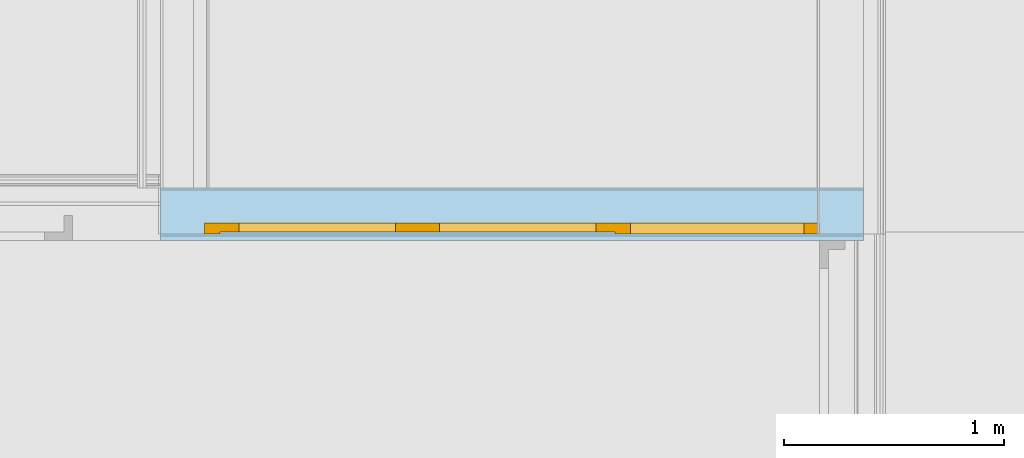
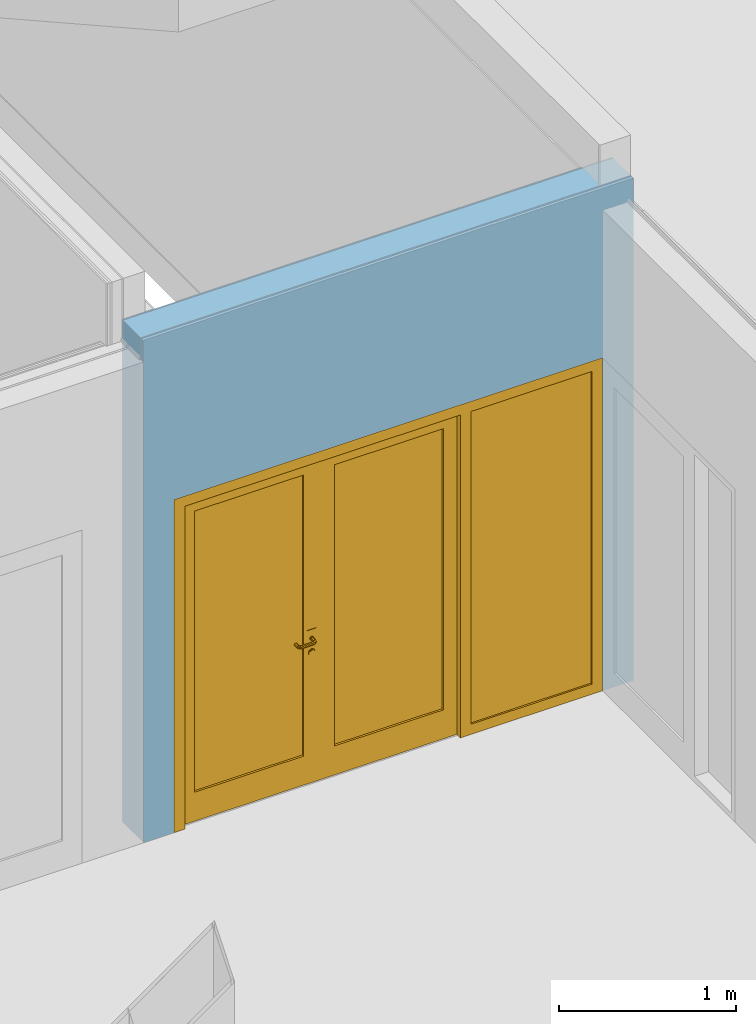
# One storey, part 103 of 139: 1 door, 1 opening, 1 element without a shape of its own, plus 4 elements that do not belong to this part.
"""IFC2X3 building model written with IfcOpenShell, lengths in millimetres."""

from ifc_helpers import new_model, entity, si_unit, converted_unit, derived_unit, money_unit, direction, frame, origin_with_axes, place, context, subcontext, project, spatial, open_shell, faceted_brep, surface_model, material, type_object, element, fill, aggregate, save


model = new_model("IFC2X3")

# Units and contexts
model_context = context("Model", 3, precision=0.01, world=origin_with_axes(), true_north=direction((0.0, 1.0)))
body_context = subcontext(model_context, "Body", "Model", "MODEL_VIEW")
ifc_project = project(units=[si_unit("LENGTHUNIT", "METRE", prefix="MILLI"), si_unit("AREAUNIT", "SQUARE_METRE"), si_unit("VOLUMEUNIT", "CUBIC_METRE"), converted_unit("PLANEANGLEUNIT", "DEGREE", entity("IfcPlaneAngleMeasure", 0.0174532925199), si_unit("PLANEANGLEUNIT", "RADIAN"), dimensions=[0, 0, 0, 0, 0, 0, 0]), money_unit("EUR"), converted_unit("TIMEUNIT", "Year", entity("IfcTimeMeasure", 31556926.0), si_unit("TIMEUNIT", "SECOND"), dimensions=[0, 0, 1, 0, 0, 0, 0]), si_unit("MASSUNIT", "GRAM", prefix="KILO"), si_unit("THERMODYNAMICTEMPERATUREUNIT", "DEGREE_CELSIUS"), si_unit("LUMINOUSINTENSITYUNIT", "LUMEN"), si_unit("ENERGYUNIT", "JOULE", prefix="MEGA"), derived_unit("THERMALCONDUCTANCEUNIT", [(si_unit("POWERUNIT", "WATT"), 1), (si_unit("LENGTHUNIT", "METRE"), -1), (si_unit("THERMODYNAMICTEMPERATUREUNIT", "KELVIN"), -1)]), derived_unit("SPECIFICHEATCAPACITYUNIT", [(si_unit("ENERGYUNIT", "JOULE"), 1), (si_unit("MASSUNIT", "GRAM", prefix="KILO"), -1), (si_unit("THERMODYNAMICTEMPERATUREUNIT", "KELVIN"), -1)]), derived_unit("MASSDENSITYUNIT", [(si_unit("MASSUNIT", "GRAM", prefix="KILO"), 1), (si_unit("VOLUMEUNIT", "CUBIC_METRE"), -1)])], contexts=[model_context])

# Site, building, storey
site_placement = place(None, origin_with_axes())
site = spatial("IfcSite", under=ifc_project, at=site_placement, Name="Kolde pst 67a", CompositionType="ELEMENT")
building_placement = place(site_placement, origin_with_axes())
building = spatial("IfcBuilding", under=site, at=building_placement, Name="Riigigümnaasium", CompositionType="ELEMENT")
storey_placement = place(building_placement, frame((0.0, 0.0, 4600.0), z_axis=(0.0, 0.0, 1.0), x_axis=(1.0, 0.0, 0.0)))
storey = spatial("IfcBuildingStorey", under=building, at=storey_placement, Name="2. korrus", CompositionType="ELEMENT", Elevation=4600.0)

# Door
door_style = type_object("IfcDoorStyle", Name="Double Door with Sidelight 25", ConstructionType="NOTDEFINED", OperationType="USERDEFINED", ParameterTakesPrecedence=False, Sizeable=False)
wall_placement = place(storey_placement, frame((49590.0100555, 52820.0001843, 0.0), z_axis=(0.0, 0.0, 1.0), x_axis=(1.0, 0.0, 0.0)))
opening_placement = place(wall_placement, frame((1599.98406667, 0.0, 0.0), z_axis=(0.0, 0.0, 1.0), x_axis=(1.0, 0.0, 0.0)))
door_placement = place(opening_placement, frame((-1400.0, 0.0, 0.0), z_axis=(0.0, 0.0, 1.0), x_axis=(1.0, 0.0, 0.0)))
door = element("IfcDoor", 1, at=door_placement, inside=storey, type_object=door_style, Name="Kahepoolne siseuks", ObjectType="DOOR", OverallHeight=2300.0, OverallWidth=2800.0, context=body_context, shape_type="SurfaceModel", body=[
    faceted_brep([(2800.0, -160.0, 0.0), (2800.0, -240.0, 0.0), (2730.0, -240.0, 0.0), (2730.0, -160.0, 0.0), (2800.0, -160.0, 2230.0), (2800.0, -240.0, 2230.0), (2730.0, -240.0, 2230.0), (2730.0, -240.0, 70.0), (2730.0, -160.0, 70.0), (2730.0, -160.0, 2230.0)], [[[0, 1, 2, 3]], [[4, 5, 1, 0]], [[1, 5, 6, 7, 2]], [[3, 2, 7, 8]], [[0, 3, 8, 9, 4]], [[9, 6, 5, 4]], [[8, 7, 6, 9]]]),
    faceted_brep([(1870.0, -200.0, 0.0), (1870.0, -240.0, 0.0), (1870.0, -240.0, 2230.0), (1870.0, -200.0, 2230.0), (1882.0, -200.0, 0.0), (1882.0, -160.0, 0.0), (1940.0, -160.0, 0.0), (1940.0, -240.0, 0.0), (1940.0, -240.0, 70.0), (1940.0, -240.0, 2230.0), (1882.0, -200.0, 2230.0), (1940.0, -160.0, 2230.0), (1882.0, -160.0, 2230.0), (1940.0, -160.0, 70.0)], [[[0, 1, 2, 3]], [[4, 5, 6, 7, 1, 0]], [[7, 8, 9, 2, 1]], [[10, 3, 2, 9, 11, 12]], [[10, 4, 0, 3]], [[12, 5, 4, 10]], [[12, 11, 13, 6, 5]], [[6, 13, 8, 7]], [[13, 11, 9, 8]]]),
    faceted_brep([(2730.0, -160.0, 70.0), (2730.0, -240.0, 70.0), (2730.0, -240.0, 0.0), (2730.0, -160.0, 0.0), (1940.0, -160.0, 70.0), (1940.0, -240.0, 70.0), (1940.0, -240.0, 0.0), (1940.0, -160.0, 0.0)], [[[0, 1, 2, 3]], [[4, 5, 1, 0]], [[1, 5, 6, 2]], [[3, 2, 6, 7]], [[0, 3, 7, 4]], [[7, 6, 5, 4]]]),
    faceted_brep([(58.0, -200.0, 2230.0), (58.0, -160.0, 2230.0), (0.0, -160.0, 2230.0), (0.0, -240.0, 2230.0), (70.0, -240.0, 2230.0), (70.0, -200.0, 2230.0), (58.0, -200.0, 0.0), (58.0, -160.0, 0.0), (0.0, -160.0, 0.0), (0.0, -240.0, 0.0), (70.0, -240.0, 0.0), (70.0, -200.0, 0.0)], [[[0, 1, 2, 3, 4, 5]], [[0, 6, 7, 1]], [[7, 8, 2, 1]], [[2, 8, 9, 3]], [[3, 9, 10, 4]], [[5, 4, 10, 11]], [[5, 11, 6, 0]], [[6, 11, 10, 9, 8, 7]]]),
    faceted_brep([(1882.0, -160.0, 2242.0), (58.0, -160.0, 2242.0), (58.0, -160.0, 2230.0), (0.0, -160.0, 2230.0), (0.0, -160.0, 2300.0), (2800.0, -160.0, 2300.0), (2800.0, -160.0, 2230.0), (2730.0, -160.0, 2230.0), (1940.0, -160.0, 2230.0), (1882.0, -160.0, 2230.0), (1882.0, -200.0, 2242.0), (58.0, -200.0, 2242.0), (58.0, -200.0, 2230.0), (70.0, -200.0, 2230.0), (70.0, -240.0, 2230.0), (0.0, -240.0, 2230.0), (0.0, -240.0, 2300.0), (2800.0, -240.0, 2300.0), (2800.0, -240.0, 2230.0), (2730.0, -240.0, 2230.0), (1940.0, -240.0, 2230.0), (1882.0, -200.0, 2230.0), (1870.0, -240.0, 2230.0)], [[[0, 1, 2, 3, 4, 5, 6, 7, 8, 9]], [[0, 10, 11, 1]], [[1, 11, 12, 2]], [[12, 13, 14, 15, 3, 2]], [[4, 3, 15, 16]], [[5, 4, 16, 17]], [[6, 5, 17, 18]], [[7, 6, 18, 19]], [[8, 7, 19, 20]], [[21, 9, 8, 20, 22, 14, 13]], [[9, 21, 10, 0]], [[12, 11, 10, 21, 13]], [[14, 22, 20, 19, 18, 17, 16, 15]]]),
    faceted_brep([(948.5, -200.0, 1060.0), (891.5, -200.0, 1060.0), (891.5, -203.0, 1060.0), (948.5, -203.0, 1060.0), (948.5, -200.0, 870.0), (891.5, -200.0, 870.0), (891.5, -203.0, 870.0), (948.5, -203.0, 870.0)], [[[0, 1, 2, 3]], [[0, 4, 5, 1]], [[1, 5, 6, 2]], [[3, 2, 6, 7]], [[4, 0, 3, 7]], [[5, 4, 7, 6]]]),
    surface_model("IfcShellBasedSurfaceModel", [(910.0, -213.0, 1000.0), (912.928932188, -213.0, 992.928932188), (912.928932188, -232.303560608, 992.928932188), (910.0, -232.015085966, 1000.0), (920.0, -213.0, 990.0), (920.0, -233.0, 990.0), (911.816790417, -237.894674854, 992.928932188), (909.057796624, -236.751862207, 1000.0), (912.928932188, -213.0, 1007.07106781), (912.928932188, -232.303560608, 1007.07106781), (927.071067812, -213.0, 992.928932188), (927.071067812, -233.696439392, 992.928932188), (918.47759065, -240.653668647, 990.0), (909.044179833, -242.044179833, 992.928932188), (906.932537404, -239.932537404, 1000.0), (911.816790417, -237.894674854, 1007.07106781), (920.0, -213.0, 1010.0), (920.0, -233.0, 1010.0), (930.0, -213.0, 1000.0), (930.0, -233.984914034, 1000.0), (925.138390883, -243.41266244, 992.928932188), (914.142135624, -247.142135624, 990.0), (904.894674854, -244.816790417, 992.928932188), (903.751862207, -242.057796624, 1000.0), (909.044179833, -242.044179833, 1007.07106781), (918.47759065, -240.653668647, 1010.0), (927.071067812, -213.0, 1007.07106781), (927.071067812, -233.696439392, 1007.07106781), (927.897384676, -244.555475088, 1000.0), (919.240091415, -252.240091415, 992.928932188), (907.653668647, -251.47759065, 990.0), (899.303560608, -245.928932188, 992.928932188), (899.015085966, -243.0, 1000.0), (904.894674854, -244.816790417, 1007.07106781), (914.142135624, -247.142135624, 1010.0), (925.138390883, -243.41266244, 1007.07106781), (921.351733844, -254.351733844, 1000.0), (910.41266244, -258.138390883, 992.928932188), (900.0, -253.0, 990.0), (830.696439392, -245.928932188, 992.928932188), (830.984914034, -243.0, 1000.0), (899.303560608, -245.928932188, 1007.07106781), (907.653668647, -251.47759065, 1010.0), (919.240091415, -252.240091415, 1007.07106781), (911.555475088, -260.897384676, 1000.0), (900.696439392, -260.071067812, 992.928932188), (830.0, -253.0, 990.0), (825.105325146, -244.816790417, 992.928932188), (826.248137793, -242.057796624, 1000.0), (830.696439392, -245.928932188, 1007.07106781), (900.0, -253.0, 1010.0), (910.41266244, -258.138390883, 1007.07106781), (900.984914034, -263.0, 1000.0), (829.303560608, -260.071067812, 992.928932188), (822.346331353, -251.47759065, 990.0), (820.955820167, -242.044179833, 992.928932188), (823.067462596, -239.932537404, 1000.0), (825.105325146, -244.816790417, 1007.07106781), (830.0, -253.0, 1010.0), (900.696439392, -260.071067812, 1007.07106781), (829.015085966, -263.0, 1000.0), (819.58733756, -258.138390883, 992.928932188), (815.857864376, -247.142135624, 990.0), (818.183209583, -237.894674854, 992.928932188), (820.942203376, -236.751862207, 1000.0), (820.955820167, -242.044179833, 1007.07106781), (822.346331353, -251.47759065, 1010.0), (829.303560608, -260.071067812, 1007.07106781), (818.444524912, -260.897384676, 1000.0), (810.759908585, -252.240091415, 992.928932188), (811.52240935, -240.653668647, 990.0), (817.071067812, -232.303560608, 992.928932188), (820.0, -232.015085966, 1000.0), (818.183209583, -237.894674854, 1007.07106781), (815.857864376, -247.142135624, 1010.0), (819.58733756, -258.138390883, 1007.07106781), (808.648266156, -254.351733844, 1000.0), (804.861609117, -243.41266244, 992.928932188), (810.0, -233.0, 990.0), (817.071067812, -213.0, 992.928932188), (820.0, -213.0, 1000.0), (817.071067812, -232.303560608, 1007.07106781), (811.52240935, -240.653668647, 1010.0), (810.759908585, -252.240091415, 1007.07106781), (802.102615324, -244.555475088, 1000.0), (802.928932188, -233.696439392, 992.928932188), (810.0, -213.0, 990.0), (802.928932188, -213.0, 992.928932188), (800.0, -213.0, 1000.0), (802.928932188, -213.0, 1007.07106781), (810.0, -213.0, 1010.0), (817.071067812, -213.0, 1007.07106781), (810.0, -233.0, 1010.0), (804.861609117, -243.41266244, 1007.07106781), (800.0, -233.984914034, 1000.0), (802.928932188, -233.696439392, 1007.07106781)], [open_shell([[[0, 1, 2, 3]], [[1, 4, 5, 2]], [[3, 2, 6, 7]], [[8, 0, 3, 9]], [[4, 10, 11, 5]], [[2, 5, 12, 6]], [[7, 6, 13, 14]], [[9, 3, 7, 15]], [[16, 8, 9, 17]], [[10, 18, 19, 11]], [[5, 11, 20, 12]], [[6, 12, 21, 13]], [[14, 13, 22, 23]], [[15, 7, 14, 24]], [[17, 9, 15, 25]], [[26, 16, 17, 27]], [[18, 26, 27, 19]], [[11, 19, 28, 20]], [[12, 20, 29, 21]], [[13, 21, 30, 22]], [[23, 22, 31, 32]], [[24, 14, 23, 33]], [[25, 15, 24, 34]], [[27, 17, 25, 35]], [[19, 27, 35, 28]], [[20, 28, 36, 29]], [[21, 29, 37, 30]], [[22, 30, 38, 31]], [[32, 31, 39, 40]], [[33, 23, 32, 41]], [[34, 24, 33, 42]], [[35, 25, 34, 43]], [[28, 35, 43, 36]], [[29, 36, 44, 37]], [[30, 37, 45, 38]], [[31, 38, 46, 39]], [[40, 39, 47, 48]], [[41, 32, 40, 49]], [[42, 33, 41, 50]], [[43, 34, 42, 51]], [[36, 43, 51, 44]], [[37, 44, 52, 45]], [[38, 45, 53, 46]], [[39, 46, 54, 47]], [[48, 47, 55, 56]], [[49, 40, 48, 57]], [[50, 41, 49, 58]], [[51, 42, 50, 59]], [[44, 51, 59, 52]], [[45, 52, 60, 53]], [[46, 53, 61, 54]], [[47, 54, 62, 55]], [[56, 55, 63, 64]], [[57, 48, 56, 65]], [[58, 49, 57, 66]], [[59, 50, 58, 67]], [[52, 59, 67, 60]], [[53, 60, 68, 61]], [[54, 61, 69, 62]], [[55, 62, 70, 63]], [[64, 63, 71, 72]], [[65, 56, 64, 73]], [[66, 57, 65, 74]], [[67, 58, 66, 75]], [[60, 67, 75, 68]], [[61, 68, 76, 69]], [[62, 69, 77, 70]], [[63, 70, 78, 71]], [[72, 71, 79, 80]], [[73, 64, 72, 81]], [[74, 65, 73, 82]], [[75, 66, 74, 83]], [[68, 75, 83, 76]], [[69, 76, 84, 77]], [[70, 77, 85, 78]], [[71, 78, 86, 79]], [[80, 79, 86, 87, 88, 89, 90, 91]], [[81, 72, 80, 91]], [[82, 73, 81, 92]], [[83, 74, 82, 93]], [[76, 83, 93, 84]], [[77, 84, 94, 85]], [[78, 85, 87, 86]], [[85, 94, 88, 87]], [[94, 95, 89, 88]], [[95, 92, 90, 89]], [[92, 81, 91, 90]], [[93, 82, 92, 95]], [[84, 93, 95, 94]]])]),
    faceted_brep([(909.607695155, -213.0, 994.0), (908.0, -213.0, 1000.0), (907.0, -203.0, 1000.0), (908.741669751, -203.0, 993.5), (914.0, -213.0, 989.607695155), (920.0, -213.0, 988.0), (926.0, -213.0, 989.607695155), (930.392304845, -213.0, 994.0), (932.0, -213.0, 1000.0), (930.392304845, -213.0, 1006.0), (926.0, -213.0, 1010.39230485), (920.0, -213.0, 1012.0), (914.0, -213.0, 1010.39230485), (909.607695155, -213.0, 1006.0), (908.741669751, -203.0, 1006.5), (913.5, -203.0, 1011.25833025), (920.0, -203.0, 1013.0), (926.5, -203.0, 1011.25833025), (931.258330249, -203.0, 1006.5), (933.0, -203.0, 1000.0), (931.258330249, -203.0, 993.5), (926.5, -203.0, 988.741669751), (920.0, -203.0, 987.0), (913.5, -203.0, 988.741669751)], [[[0, 1, 2, 3]], [[1, 0, 4, 5, 6, 7, 8, 9, 10, 11, 12, 13]], [[1, 13, 14, 2]], [[2, 14, 15, 16, 17, 18, 19, 20, 21, 22, 23, 3]], [[4, 0, 3, 23]], [[5, 4, 23, 22]], [[6, 5, 22, 21]], [[7, 6, 21, 20]], [[8, 7, 20, 19]], [[9, 8, 19, 18]], [[10, 9, 18, 17]], [[11, 10, 17, 16]], [[12, 11, 16, 15]], [[13, 12, 15, 14]]]),
    faceted_brep([(902.679491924, -207.0, 895.0), (900.0, -207.0, 905.0), (898.0, -203.0, 905.0), (900.947441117, -203.0, 894.0), (910.0, -207.0, 887.679491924), (920.0, -207.0, 885.0), (930.0, -207.0, 887.679491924), (937.320508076, -207.0, 895.0), (940.0, -207.0, 905.0), (937.320508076, -207.0, 915.0), (930.0, -207.0, 922.320508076), (920.0, -207.0, 925.0), (910.0, -207.0, 922.320508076), (902.679491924, -207.0, 915.0), (900.947441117, -203.0, 916.0), (909.0, -203.0, 924.052558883), (920.0, -203.0, 927.0), (931.0, -203.0, 924.052558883), (939.052558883, -203.0, 916.0), (942.0, -203.0, 905.0), (939.052558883, -203.0, 894.0), (931.0, -203.0, 885.947441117), (920.0, -203.0, 883.0), (909.0, -203.0, 885.947441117)], [[[0, 1, 2, 3]], [[1, 0, 4, 5, 6, 7, 8, 9, 10, 11, 12, 13]], [[1, 13, 14, 2]], [[2, 14, 15, 16, 17, 18, 19, 20, 21, 22, 23, 3]], [[4, 0, 3, 23]], [[5, 4, 23, 22]], [[6, 5, 22, 21]], [[7, 6, 21, 20]], [[8, 7, 20, 19]], [[9, 8, 19, 18]], [[10, 9, 18, 17]], [[11, 10, 17, 16]], [[12, 11, 16, 15]], [[13, 12, 15, 14]]]),
    faceted_brep([(915.050252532, -209.0, 909.050252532), (913.0, -209.0, 914.0), (912.0, -207.0, 914.0), (914.343145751, -207.0, 908.343145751), (920.0, -209.0, 907.0), (924.949747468, -209.0, 909.050252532), (927.0, -209.0, 914.0), (924.949747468, -209.0, 918.949747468), (920.0, -209.0, 921.0), (915.050252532, -209.0, 918.949747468), (914.343145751, -207.0, 919.656854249), (920.0, -207.0, 922.0), (925.656854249, -207.0, 919.656854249), (928.0, -207.0, 914.0), (925.656854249, -207.0, 908.343145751), (920.0, -207.0, 906.0)], [[[0, 1, 2, 3]], [[1, 0, 4, 5, 6, 7, 8, 9]], [[1, 9, 10, 2]], [[2, 10, 11, 12, 13, 14, 15, 3]], [[4, 0, 3, 15]], [[5, 4, 15, 14]], [[6, 5, 14, 13]], [[7, 6, 13, 12]], [[8, 7, 12, 11]], [[9, 8, 11, 10]]]),
    faceted_brep([(948.5, -160.0, 1060.0), (948.5, -157.0, 1060.0), (891.5, -157.0, 1060.0), (891.5, -160.0, 1060.0), (948.5, -160.0, 870.0), (948.5, -157.0, 870.0), (891.5, -157.0, 870.0), (891.5, -160.0, 870.0)], [[[0, 1, 2, 3]], [[4, 5, 1, 0]], [[1, 5, 6, 2]], [[3, 2, 6, 7]], [[0, 3, 7, 4]], [[7, 6, 5, 4]]]),
    surface_model("IfcShellBasedSurfaceModel", [(910.0, -147.0, 1000.0), (910.0, -127.984914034, 1000.0), (912.928932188, -127.696439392, 992.928932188), (912.928932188, -147.0, 992.928932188), (912.928932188, -147.0, 1007.07106781), (912.928932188, -127.696439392, 1007.07106781), (909.057796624, -123.248137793, 1000.0), (911.816790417, -122.105325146, 992.928932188), (920.0, -127.0, 990.0), (920.0, -147.0, 990.0), (920.0, -147.0, 1010.0), (920.0, -127.0, 1010.0), (911.816790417, -122.105325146, 1007.07106781), (906.932537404, -120.067462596, 1000.0), (909.044179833, -117.955820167, 992.928932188), (918.47759065, -119.346331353, 990.0), (927.071067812, -126.303560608, 992.928932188), (927.071067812, -147.0, 992.928932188), (927.071067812, -147.0, 1007.07106781), (927.071067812, -126.303560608, 1007.07106781), (918.47759065, -119.346331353, 1010.0), (909.044179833, -117.955820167, 1007.07106781), (903.751862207, -117.942203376, 1000.0), (904.894674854, -115.183209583, 992.928932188), (914.142135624, -112.857864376, 990.0), (925.138390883, -116.58733756, 992.928932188), (930.0, -126.015085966, 1000.0), (930.0, -147.0, 1000.0), (925.138390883, -116.58733756, 1007.07106781), (914.142135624, -112.857864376, 1010.0), (904.894674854, -115.183209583, 1007.07106781), (899.015085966, -117.0, 1000.0), (899.303560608, -114.071067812, 992.928932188), (907.653668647, -108.52240935, 990.0), (919.240091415, -107.759908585, 992.928932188), (927.897384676, -115.444524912, 1000.0), (919.240091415, -107.759908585, 1007.07106781), (907.653668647, -108.52240935, 1010.0), (899.303560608, -114.071067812, 1007.07106781), (830.984914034, -117.0, 1000.0), (830.696439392, -114.071067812, 992.928932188), (900.0, -107.0, 990.0), (910.41266244, -101.861609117, 992.928932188), (921.351733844, -105.648266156, 1000.0), (910.41266244, -101.861609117, 1007.07106781), (900.0, -107.0, 1010.0), (830.696439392, -114.071067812, 1007.07106781), (826.248137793, -117.942203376, 1000.0), (825.105325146, -115.183209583, 992.928932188), (830.0, -107.0, 990.0), (900.696439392, -99.9289321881, 992.928932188), (911.555475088, -99.1026153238, 1000.0), (900.696439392, -99.9289321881, 1007.07106781), (830.0, -107.0, 1010.0), (825.105325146, -115.183209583, 1007.07106781), (823.067462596, -120.067462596, 1000.0), (820.955820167, -117.955820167, 992.928932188), (822.346331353, -108.52240935, 990.0), (829.303560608, -99.9289321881, 992.928932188), (900.984914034, -97.0, 1000.0), (829.303560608, -99.9289321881, 1007.07106781), (822.346331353, -108.52240935, 1010.0), (820.955820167, -117.955820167, 1007.07106781), (820.942203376, -123.248137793, 1000.0), (818.183209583, -122.105325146, 992.928932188), (815.857864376, -112.857864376, 990.0), (819.58733756, -101.861609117, 992.928932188), (829.015085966, -97.0, 1000.0), (819.58733756, -101.861609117, 1007.07106781), (815.857864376, -112.857864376, 1010.0), (818.183209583, -122.105325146, 1007.07106781), (820.0, -127.984914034, 1000.0), (817.071067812, -127.696439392, 992.928932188), (811.52240935, -119.346331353, 990.0), (810.759908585, -107.759908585, 992.928932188), (818.444524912, -99.1026153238, 1000.0), (810.759908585, -107.759908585, 1007.07106781), (811.52240935, -119.346331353, 1010.0), (817.071067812, -127.696439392, 1007.07106781), (820.0, -147.0, 1000.0), (817.071067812, -147.0, 992.928932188), (810.0, -127.0, 990.0), (804.861609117, -116.58733756, 992.928932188), (808.648266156, -105.648266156, 1000.0), (804.861609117, -116.58733756, 1007.07106781), (810.0, -127.0, 1010.0), (817.071067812, -147.0, 1007.07106781), (810.0, -147.0, 1010.0), (802.928932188, -147.0, 1007.07106781), (800.0, -147.0, 1000.0), (802.928932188, -147.0, 992.928932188), (810.0, -147.0, 990.0), (802.928932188, -126.303560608, 992.928932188), (802.102615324, -115.444524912, 1000.0), (802.928932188, -126.303560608, 1007.07106781), (800.0, -126.015085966, 1000.0)], [open_shell([[[0, 1, 2, 3]], [[4, 5, 1, 0]], [[1, 6, 7, 2]], [[3, 2, 8, 9]], [[10, 11, 5, 4]], [[5, 12, 6, 1]], [[6, 13, 14, 7]], [[2, 7, 15, 8]], [[9, 8, 16, 17]], [[18, 19, 11, 10]], [[11, 20, 12, 5]], [[12, 21, 13, 6]], [[13, 22, 23, 14]], [[7, 14, 24, 15]], [[8, 15, 25, 16]], [[17, 16, 26, 27]], [[27, 26, 19, 18]], [[19, 28, 20, 11]], [[20, 29, 21, 12]], [[21, 30, 22, 13]], [[22, 31, 32, 23]], [[14, 23, 33, 24]], [[15, 24, 34, 25]], [[16, 25, 35, 26]], [[26, 35, 28, 19]], [[28, 36, 29, 20]], [[29, 37, 30, 21]], [[30, 38, 31, 22]], [[31, 39, 40, 32]], [[23, 32, 41, 33]], [[24, 33, 42, 34]], [[25, 34, 43, 35]], [[35, 43, 36, 28]], [[36, 44, 37, 29]], [[37, 45, 38, 30]], [[38, 46, 39, 31]], [[39, 47, 48, 40]], [[32, 40, 49, 41]], [[33, 41, 50, 42]], [[34, 42, 51, 43]], [[43, 51, 44, 36]], [[44, 52, 45, 37]], [[45, 53, 46, 38]], [[46, 54, 47, 39]], [[47, 55, 56, 48]], [[40, 48, 57, 49]], [[41, 49, 58, 50]], [[42, 50, 59, 51]], [[51, 59, 52, 44]], [[52, 60, 53, 45]], [[53, 61, 54, 46]], [[54, 62, 55, 47]], [[55, 63, 64, 56]], [[48, 56, 65, 57]], [[49, 57, 66, 58]], [[50, 58, 67, 59]], [[59, 67, 60, 52]], [[60, 68, 61, 53]], [[61, 69, 62, 54]], [[62, 70, 63, 55]], [[63, 71, 72, 64]], [[56, 64, 73, 65]], [[57, 65, 74, 66]], [[58, 66, 75, 67]], [[67, 75, 68, 60]], [[68, 76, 69, 61]], [[69, 77, 70, 62]], [[70, 78, 71, 63]], [[71, 79, 80, 72]], [[64, 72, 81, 73]], [[65, 73, 82, 74]], [[66, 74, 83, 75]], [[75, 83, 76, 68]], [[76, 84, 77, 69]], [[77, 85, 78, 70]], [[78, 86, 79, 71]], [[79, 86, 87, 88, 89, 90, 91, 80]], [[72, 80, 91, 81]], [[73, 81, 92, 82]], [[74, 82, 93, 83]], [[83, 93, 84, 76]], [[84, 94, 85, 77]], [[85, 87, 86, 78]], [[94, 88, 87, 85]], [[95, 89, 88, 94]], [[92, 90, 89, 95]], [[81, 91, 90, 92]], [[82, 92, 95, 93]], [[93, 95, 94, 84]]])]),
    faceted_brep([(909.607695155, -147.0, 994.0), (908.741669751, -157.0, 993.5), (907.0, -157.0, 1000.0), (908.0, -147.0, 1000.0), (914.0, -147.0, 989.607695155), (913.5, -157.0, 988.741669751), (920.0, -157.0, 987.0), (926.5, -157.0, 988.741669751), (931.258330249, -157.0, 993.5), (933.0, -157.0, 1000.0), (931.258330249, -157.0, 1006.5), (926.5, -157.0, 1011.25833025), (920.0, -157.0, 1013.0), (913.5, -157.0, 1011.25833025), (908.741669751, -157.0, 1006.5), (909.607695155, -147.0, 1006.0), (914.0, -147.0, 1010.39230485), (920.0, -147.0, 1012.0), (926.0, -147.0, 1010.39230485), (930.392304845, -147.0, 1006.0), (932.0, -147.0, 1000.0), (930.392304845, -147.0, 994.0), (926.0, -147.0, 989.607695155), (920.0, -147.0, 988.0)], [[[0, 1, 2, 3]], [[4, 5, 1, 0]], [[2, 1, 5, 6, 7, 8, 9, 10, 11, 12, 13, 14]], [[3, 2, 14, 15]], [[3, 15, 16, 17, 18, 19, 20, 21, 22, 23, 4, 0]], [[23, 6, 5, 4]], [[22, 7, 6, 23]], [[21, 8, 7, 22]], [[20, 9, 8, 21]], [[19, 10, 9, 20]], [[18, 11, 10, 19]], [[17, 12, 11, 18]], [[16, 13, 12, 17]], [[15, 14, 13, 16]]]),
    faceted_brep([(902.679491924, -153.0, 895.0), (900.947441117, -157.0, 894.0), (898.0, -157.0, 905.0), (900.0, -153.0, 905.0), (910.0, -153.0, 887.679491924), (909.0, -157.0, 885.947441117), (920.0, -157.0, 883.0), (931.0, -157.0, 885.947441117), (939.052558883, -157.0, 894.0), (942.0, -157.0, 905.0), (939.052558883, -157.0, 916.0), (931.0, -157.0, 924.052558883), (920.0, -157.0, 927.0), (909.0, -157.0, 924.052558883), (900.947441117, -157.0, 916.0), (902.679491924, -153.0, 915.0), (910.0, -153.0, 922.320508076), (920.0, -153.0, 925.0), (930.0, -153.0, 922.320508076), (937.320508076, -153.0, 915.0), (940.0, -153.0, 905.0), (937.320508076, -153.0, 895.0), (930.0, -153.0, 887.679491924), (920.0, -153.0, 885.0)], [[[0, 1, 2, 3]], [[4, 5, 1, 0]], [[2, 1, 5, 6, 7, 8, 9, 10, 11, 12, 13, 14]], [[3, 2, 14, 15]], [[3, 15, 16, 17, 18, 19, 20, 21, 22, 23, 4, 0]], [[23, 6, 5, 4]], [[22, 7, 6, 23]], [[21, 8, 7, 22]], [[20, 9, 8, 21]], [[19, 10, 9, 20]], [[18, 11, 10, 19]], [[17, 12, 11, 18]], [[16, 13, 12, 17]], [[15, 14, 13, 16]]]),
    faceted_brep([(915.050252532, -151.0, 909.050252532), (914.343145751, -153.0, 908.343145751), (912.0, -153.0, 914.0), (913.0, -151.0, 914.0), (920.0, -151.0, 907.0), (920.0, -153.0, 906.0), (925.656854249, -153.0, 908.343145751), (928.0, -153.0, 914.0), (925.656854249, -153.0, 919.656854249), (920.0, -153.0, 922.0), (914.343145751, -153.0, 919.656854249), (915.050252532, -151.0, 918.949747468), (920.0, -151.0, 921.0), (924.949747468, -151.0, 918.949747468), (927.0, -151.0, 914.0), (924.949747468, -151.0, 909.050252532)], [[[0, 1, 2, 3]], [[4, 5, 1, 0]], [[2, 1, 5, 6, 7, 8, 9, 10]], [[3, 2, 10, 11]], [[3, 11, 12, 13, 14, 15, 4, 0]], [[15, 6, 5, 4]], [[14, 7, 6, 15]], [[13, 8, 7, 14]], [[12, 9, 8, 13]], [[11, 10, 9, 12]]]),
    faceted_brep([(58.0, -160.0, 200.0), (158.0, -160.0, 200.0), (158.0, -200.0, 200.0), (58.0, -200.0, 200.0), (58.0, -160.0, 2142.0), (158.0, -160.0, 2142.0), (158.0, -200.0, 2142.0), (58.0, -200.0, 2142.0)], [[[0, 1, 2, 3]], [[0, 4, 5, 1]], [[1, 5, 6, 2]], [[3, 2, 6, 7]], [[4, 0, 3, 7]], [[5, 4, 7, 6]]]),
    faceted_brep([(970.0, -160.0, 200.0), (970.0, -160.0, 2142.0), (970.0, -200.0, 2142.0), (970.0, -200.0, 200.0), (870.0, -160.0, 200.0), (870.0, -160.0, 2142.0), (870.0, -200.0, 2142.0), (870.0, -200.0, 200.0)], [[[0, 1, 2, 3]], [[0, 4, 5, 1]], [[1, 5, 6, 2]], [[3, 2, 6, 7]], [[4, 0, 3, 7]], [[5, 4, 7, 6]]]),
    faceted_brep([(58.0, -160.0, 0.0), (970.0, -160.0, 0.0), (970.0, -200.0, 0.0), (58.0, -200.0, 0.0), (58.0, -160.0, 200.0), (158.0, -160.0, 200.0), (870.0, -160.0, 200.0), (970.0, -160.0, 200.0), (970.0, -200.0, 200.0), (870.0, -200.0, 200.0), (158.0, -200.0, 200.0), (58.0, -200.0, 200.0)], [[[0, 1, 2, 3]], [[0, 4, 5, 6, 7, 1]], [[1, 7, 8, 2]], [[3, 2, 8, 9, 10, 11]], [[4, 0, 3, 11]], [[5, 4, 11, 10]], [[6, 5, 10, 9]], [[7, 6, 9, 8]]]),
    faceted_brep([(58.0, -160.0, 2242.0), (58.0, -160.0, 2142.0), (58.0, -200.0, 2142.0), (58.0, -200.0, 2242.0), (970.0, -160.0, 2242.0), (970.0, -160.0, 2142.0), (870.0, -160.0, 2142.0), (158.0, -160.0, 2142.0), (158.0, -200.0, 2142.0), (870.0, -200.0, 2142.0), (970.0, -200.0, 2142.0), (970.0, -200.0, 2242.0)], [[[0, 1, 2, 3]], [[0, 4, 5, 6, 7, 1]], [[1, 7, 8, 2]], [[3, 2, 8, 9, 10, 11]], [[4, 0, 3, 11]], [[5, 4, 11, 10]], [[6, 5, 10, 9]], [[7, 6, 9, 8]]]),
    surface_model("IfcShellBasedSurfaceModel", [(158.0, -174.0, 200.0), (158.0, -174.0, 2142.0), (870.0, -174.0, 2142.0), (870.0, -174.0, 200.0)], [open_shell([[[0, 1, 2, 3]]])]),
    surface_model("IfcShellBasedSurfaceModel", [(158.0, -186.0, 200.0), (870.0, -186.0, 200.0), (870.0, -186.0, 2142.0), (158.0, -186.0, 2142.0)], [open_shell([[[0, 1, 2, 3]]])]),
    faceted_brep([(1882.0, -160.0, 200.0), (1882.0, -200.0, 200.0), (1782.0, -200.0, 200.0), (1782.0, -160.0, 200.0), (1882.0, -160.0, 2142.0), (1882.0, -200.0, 2142.0), (1782.0, -200.0, 2142.0), (1782.0, -160.0, 2142.0)], [[[0, 1, 2, 3]], [[4, 5, 1, 0]], [[1, 5, 6, 2]], [[3, 2, 6, 7]], [[0, 3, 7, 4]], [[7, 6, 5, 4]]]),
    faceted_brep([(970.0, -160.0, 200.0), (970.0, -200.0, 200.0), (970.0, -200.0, 2142.0), (970.0, -160.0, 2142.0), (1070.0, -160.0, 200.0), (1070.0, -200.0, 200.0), (1070.0, -200.0, 2142.0), (1070.0, -160.0, 2142.0)], [[[0, 1, 2, 3]], [[4, 5, 1, 0]], [[1, 5, 6, 2]], [[3, 2, 6, 7]], [[0, 3, 7, 4]], [[7, 6, 5, 4]]]),
    faceted_brep([(1882.0, -160.0, 0.0), (1882.0, -200.0, 0.0), (970.0, -200.0, 0.0), (970.0, -160.0, 0.0), (1882.0, -160.0, 200.0), (1882.0, -200.0, 200.0), (1782.0, -200.0, 200.0), (1070.0, -200.0, 200.0), (970.0, -200.0, 200.0), (970.0, -160.0, 200.0), (1070.0, -160.0, 200.0), (1782.0, -160.0, 200.0)], [[[0, 1, 2, 3]], [[4, 5, 1, 0]], [[1, 5, 6, 7, 8, 2]], [[3, 2, 8, 9]], [[0, 3, 9, 10, 11, 4]], [[11, 6, 5, 4]], [[10, 7, 6, 11]], [[9, 8, 7, 10]]]),
    faceted_brep([(1882.0, -160.0, 2242.0), (1882.0, -200.0, 2242.0), (1882.0, -200.0, 2142.0), (1882.0, -160.0, 2142.0), (970.0, -160.0, 2242.0), (970.0, -200.0, 2242.0), (970.0, -200.0, 2142.0), (1070.0, -200.0, 2142.0), (1782.0, -200.0, 2142.0), (1782.0, -160.0, 2142.0), (1070.0, -160.0, 2142.0), (970.0, -160.0, 2142.0)], [[[0, 1, 2, 3]], [[4, 5, 1, 0]], [[1, 5, 6, 7, 8, 2]], [[3, 2, 8, 9]], [[0, 3, 9, 10, 11, 4]], [[11, 6, 5, 4]], [[10, 7, 6, 11]], [[9, 8, 7, 10]]]),
    surface_model("IfcShellBasedSurfaceModel", [(1782.0, -174.0, 200.0), (1070.0, -174.0, 200.0), (1070.0, -174.0, 2142.0), (1782.0, -174.0, 2142.0)], [open_shell([[[0, 1, 2, 3]]])]),
    surface_model("IfcShellBasedSurfaceModel", [(1782.0, -186.0, 200.0), (1782.0, -186.0, 2142.0), (1070.0, -186.0, 2142.0), (1070.0, -186.0, 200.0)], [open_shell([[[0, 1, 2, 3]]])]),
    surface_model("IfcShellBasedSurfaceModel", [(2730.0, -216.0, 70.0), (1940.0, -216.0, 70.0), (1940.0, -216.0, 2230.0), (2730.0, -216.0, 2230.0)], [open_shell([[[0, 1, 2, 3]]])]),
    surface_model("IfcShellBasedSurfaceModel", [(2730.0, -228.0, 70.0), (2730.0, -228.0, 2230.0), (1940.0, -228.0, 2230.0), (1940.0, -228.0, 70.0)], [open_shell([[[0, 1, 2, 3]]])]),
])

# Wall, opening
wall_type = type_object("IfcWallType", Name="SS-RB-20/3_+krohv+dold 240", PredefinedType="NOTDEFINED")
wall = element("IfcWall", 2, at=wall_placement, inside=storey, type_object=wall_type, Name="Sisesein")
opening = element("IfcOpeningElement", 3, at=opening_placement, cuts=wall, Name="Kahepoolne siseuks", context=body_context, shape_type="Brep", body=[
    faceted_brep([(-1400.0, -480.0, 0.0), (-1400.0, -480.0, 2300.0), (-1400.0, 240.0, 2300.0), (-1400.0, 240.0, 0.0), (1400.0, -480.0, 0.0), (1400.0, -480.0, 2300.0), (1400.0, 240.0, 2300.0), (1400.0, 240.0, 0.0)], [[[0, 1, 2, 3]], [[0, 4, 5, 1]], [[1, 5, 6, 2]], [[3, 2, 6, 7]], [[4, 0, 3, 7]], [[5, 4, 7, 6]]]),
])

fill(opening, door)

# Building element part
ifc_material_1 = material(Name="_VIIMISTLUSKIHT - viimistlus vastavalt SA osale")
building_element_part_1_placement = place(wall_placement, origin_with_axes())
building_element_part_1 = element("IfcBuildingElementPart", 4, at=building_element_part_1_placement, material=ifc_material_1, Name="_VIIMISTLUSKIHT - viimistlus vastavalt SA osale", context=body_context, shape_type="Brep", body=[
    faceted_brep([(199.984066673, 0.0, 2300.0), (199.984066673, 0.0, 0.0), (0.0, 0.0, 0.0), (0.0, 0.0, 3470.0), (3199.98406667, 0.0, 3470.0), (3199.98406667, 0.0, 0.0), (2999.98406667, 0.0, 0.0), (2999.98406667, 0.0, 2300.0), (199.984066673, -10.0, 2300.0), (199.984066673, -10.0, 0.0), (0.0, -10.0, 0.0), (0.0, -10.0, 3470.0), (3199.98406667, -10.0, 3470.0), (3199.98406667, -10.0, 0.0), (2999.98406667, -10.0, 0.0), (2999.98406667, -10.0, 2300.0)], [[[0, 1, 2, 3, 4, 5, 6, 7]], [[1, 0, 8, 9]], [[1, 9, 10, 2]], [[3, 2, 10, 11]], [[4, 3, 11, 12]], [[13, 5, 4, 12]], [[14, 6, 5, 13]], [[7, 6, 14, 15]], [[0, 7, 15, 8]], [[15, 14, 13, 12, 11, 10, 9, 8]]]),
])

ifc_material_2 = material(Name="_KANDETARIND - monteeritav raudbetoon vastavalt EK osale")
building_element_part_2_placement = place(wall_placement, origin_with_axes())
building_element_part_2 = element("IfcBuildingElementPart", 5, at=building_element_part_2_placement, material=ifc_material_2, Name="_KANDETARIND - monteeritav raudbetoon vastavalt EK osale", context=body_context, shape_type="Brep", body=[
    faceted_brep([(199.984066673, -10.0, 2300.0), (199.984066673, -10.0, 0.0), (0.0, -10.0, 0.0), (0.0, -10.0, 3470.0), (3199.98406667, -10.0, 3470.0), (3199.98406667, -10.0, 0.0), (2999.98406667, -10.0, 0.0), (2999.98406667, -10.0, 2300.0), (199.984066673, -210.0, 2300.0), (199.984066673, -210.0, 0.0), (0.0, -210.0, 0.0), (0.0, -210.0, 3470.0), (3199.98406667, -210.0, 3470.0), (3199.98406667, -210.0, 0.0), (2999.98406667, -210.0, 0.0), (2999.98406667, -210.0, 2300.0)], [[[0, 1, 2, 3, 4, 5, 6, 7]], [[1, 0, 8, 9]], [[1, 9, 10, 2]], [[3, 2, 10, 11]], [[4, 3, 11, 12]], [[13, 5, 4, 12]], [[14, 6, 5, 13]], [[7, 6, 14, 15]], [[0, 7, 15, 8]], [[15, 14, 13, 12, 11, 10, 9, 8]]]),
])

ifc_material_3 = material(Name="_KARKASS - eriprofiilkinnitus vastavalt sisemisele plaatviimistlusele")
building_element_part_3_placement = place(wall_placement, origin_with_axes())
building_element_part_3 = element("IfcBuildingElementPart", 6, at=building_element_part_3_placement, material=ifc_material_3, Name="_KARKASS - eriprofiilkinnitus vastavalt sisemisele plaatviimistlusele", context=body_context, shape_type="Brep", body=[
    faceted_brep([(199.984066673, -210.0, 2300.0), (199.984066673, -210.0, 0.0), (0.0, -210.0, 0.0), (0.0, -210.0, 3470.0), (3199.98406667, -210.0, 3470.0), (3199.98406667, -210.0, 0.0), (2999.98406667, -210.0, 0.0), (2999.98406667, -210.0, 2300.0), (199.984066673, -220.0, 2300.0), (199.984066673, -220.0, 0.0), (0.0, -220.0, 0.0), (0.0, -220.0, 3470.0), (3199.98406667, -220.0, 3470.0), (3199.98406667, -220.0, 0.0), (2999.98406667, -220.0, 0.0), (2999.98406667, -220.0, 2300.0)], [[[0, 1, 2, 3, 4, 5, 6, 7]], [[1, 0, 8, 9]], [[1, 9, 10, 2]], [[3, 2, 10, 11]], [[4, 3, 11, 12]], [[13, 5, 4, 12]], [[14, 6, 5, 13]], [[7, 6, 14, 15]], [[0, 7, 15, 8]], [[15, 14, 13, 12, 11, 10, 9, 8]]]),
])

building_element_part_4_placement = place(wall_placement, origin_with_axes())
building_element_part_4 = element("IfcBuildingElementPart", 7, at=building_element_part_4_placement, material=ifc_material_1, Name="_VIIMISTLUSKIHT - viimistlus vastavalt SA osale", context=body_context, shape_type="Brep", body=[
    faceted_brep([(199.984066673, -220.0, 2300.0), (199.984066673, -220.0, 0.0), (0.0, -220.0, 0.0), (0.0, -220.0, 3470.0), (3199.98406667, -220.0, 3470.0), (3199.98406667, -220.0, 0.0), (2999.98406667, -220.0, 0.0), (2999.98406667, -220.0, 2300.0), (199.984066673, -240.0, 2300.0), (199.984066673, -240.0, 0.0), (0.0, -240.0, 0.0), (0.0, -240.0, 3470.0), (3199.98406667, -240.0, 3470.0), (3199.98406667, -240.0, 0.0), (2999.98406667, -240.0, 0.0), (2999.98406667, -240.0, 2300.0)], [[[0, 1, 2, 3, 4, 5, 6, 7]], [[1, 0, 8, 9]], [[1, 9, 10, 2]], [[3, 2, 10, 11]], [[4, 3, 11, 12]], [[13, 5, 4, 12]], [[14, 6, 5, 13]], [[7, 6, 14, 15]], [[0, 7, 15, 8]], [[15, 14, 13, 12, 11, 10, 9, 8]]]),
])

aggregate(wall, [building_element_part_1, building_element_part_2, building_element_part_3, building_element_part_4])

save(model, "model.ifc")
